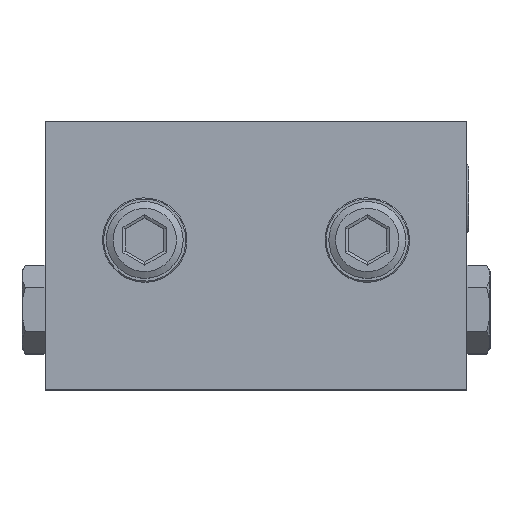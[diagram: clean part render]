
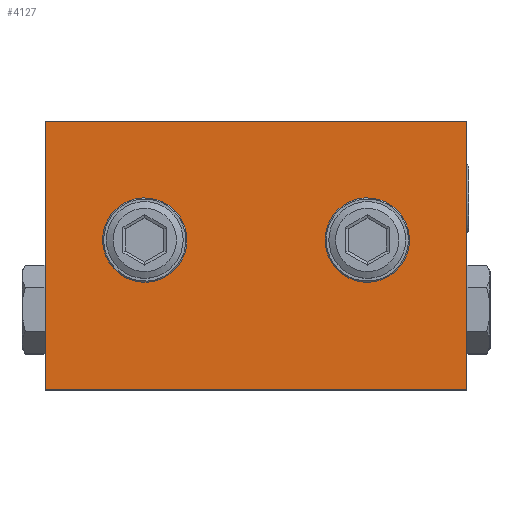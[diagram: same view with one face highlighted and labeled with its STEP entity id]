
A CAD part, top view. The second image highlights one B-rep face of the part: STEP entity #4127.
In plain terms, the highlighted planar face has unit normal (0, 0, 1) as drawn and (0, 0, -1) by its records, which use the part's own axes.
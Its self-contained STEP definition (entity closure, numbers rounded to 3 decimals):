
#1328 = EDGE_CURVE ( 'NONE', #9312, #15082, #9783, .T. ) ;
#1401 = DIRECTION ( 'NONE',  ( 0., 0., 1. ) ) ;
#1734 = CARTESIAN_POINT ( 'NONE',  ( -11.4, -15.5, -4.85 ) ) ;
#2035 = EDGE_CURVE ( 'NONE', #12770, #12770, #12037, .T. ) ;
#3020 = LINE ( 'NONE', #14480, #25596 ) ;
#3433 = AXIS2_PLACEMENT_3D ( 'NONE', #18681, #1401, #18859 ) ;
#3686 = ORIENTED_EDGE ( 'NONE', *, *, #27186, .F. ) ;
#4127 = ADVANCED_FACE ( 'NONE', ( #21812, #32584, #29810 ), #30347, .F. ) ;
#4567 = CARTESIAN_POINT ( 'NONE',  ( 27.5, 0., -4.85 ) ) ;
#5396 = AXIS2_PLACEMENT_3D ( 'NONE', #19506, #21559, #10557 ) ;
#5415 = DIRECTION ( 'NONE',  ( 0., 0., -1. ) ) ;
#6062 = CARTESIAN_POINT ( 'NONE',  ( 0., 0., -4.85 ) ) ;
#6235 = DIRECTION ( 'NONE',  ( -1., 0., 0. ) ) ;
#6666 = VECTOR ( 'NONE', #13202, 1000. ) ;
#7519 = EDGE_CURVE ( 'NONE', #34913, #31757, #15063, .T. ) ;
#8632 = ORIENTED_EDGE ( 'NONE', *, *, #15863, .F. ) ;
#9312 = VERTEX_POINT ( 'NONE', #20453 ) ;
#9783 = LINE ( 'NONE', #20579, #24020 ) ;
#10086 = VECTOR ( 'NONE', #6235, 1000. ) ;
#10557 = DIRECTION ( 'NONE',  ( -1., 0., 0. ) ) ;
#10716 = ORIENTED_EDGE ( 'NONE', *, *, #7519, .F. ) ;
#12037 = CIRCLE ( 'NONE', #5396, 3.1 ) ;
#12740 = EDGE_LOOP ( 'NONE', ( #10716, #26241, #19200, #3686 ) ) ;
#12770 = VERTEX_POINT ( 'NONE', #24116 ) ;
#13202 = DIRECTION ( 'NONE',  ( 0., 1., 0. ) ) ;
#14378 = CARTESIAN_POINT ( 'NONE',  ( 27.5, -35., -4.85 ) ) ;
#14480 = CARTESIAN_POINT ( 'NONE',  ( -27.5, 0., -4.85 ) ) ;
#14900 = AXIS2_PLACEMENT_3D ( 'NONE', #31546, #5415, #34543 ) ;
#15063 = LINE ( 'NONE', #6062, #10086 ) ;
#15082 = VERTEX_POINT ( 'NONE', #14378 ) ;
#15638 = CARTESIAN_POINT ( 'NONE',  ( 27.5, 0., -4.85 ) ) ;
#15863 = EDGE_CURVE ( 'NONE', #35568, #35568, #29148, .T. ) ;
#16553 = DIRECTION ( 'NONE',  ( 0., -1., 0. ) ) ;
#16937 = EDGE_CURVE ( 'NONE', #15082, #34913, #18808, .T. ) ;
#17658 = DIRECTION ( 'NONE',  ( 1., 0., 0. ) ) ;
#18681 = CARTESIAN_POINT ( 'NONE',  ( 0., 0., -4.85 ) ) ;
#18808 = LINE ( 'NONE', #15638, #6666 ) ;
#18859 = DIRECTION ( 'NONE',  ( 1., 0., 0. ) ) ;
#19200 = ORIENTED_EDGE ( 'NONE', *, *, #1328, .F. ) ;
#19506 = CARTESIAN_POINT ( 'NONE',  ( 14.5, -15.5, -4.85 ) ) ;
#19705 = EDGE_LOOP ( 'NONE', ( #8632 ) ) ;
#19743 = ORIENTED_EDGE ( 'NONE', *, *, #2035, .F. ) ;
#20453 = CARTESIAN_POINT ( 'NONE',  ( -27.5, -35., -4.85 ) ) ;
#20579 = CARTESIAN_POINT ( 'NONE',  ( 0., -35., -4.85 ) ) ;
#21559 = DIRECTION ( 'NONE',  ( 0., 0., -1. ) ) ;
#21812 = FACE_BOUND ( 'NONE', #19705, .T. ) ;
#24020 = VECTOR ( 'NONE', #17658, 1000. ) ;
#24116 = CARTESIAN_POINT ( 'NONE',  ( 11.4, -15.5, -4.85 ) ) ;
#25596 = VECTOR ( 'NONE', #16553, 1000. ) ;
#26241 = ORIENTED_EDGE ( 'NONE', *, *, #16937, .F. ) ;
#27186 = EDGE_CURVE ( 'NONE', #31757, #9312, #3020, .T. ) ;
#29148 = CIRCLE ( 'NONE', #14900, 3.1 ) ;
#29810 = FACE_OUTER_BOUND ( 'NONE', #12740, .T. ) ;
#30347 = PLANE ( 'NONE',  #3433 ) ;
#31546 = CARTESIAN_POINT ( 'NONE',  ( -14.5, -15.5, -4.85 ) ) ;
#31757 = VERTEX_POINT ( 'NONE', #33939 ) ;
#32584 = FACE_BOUND ( 'NONE', #34408, .T. ) ;
#33939 = CARTESIAN_POINT ( 'NONE',  ( -27.5, 0., -4.85 ) ) ;
#34408 = EDGE_LOOP ( 'NONE', ( #19743 ) ) ;
#34543 = DIRECTION ( 'NONE',  ( 1., 0., 0. ) ) ;
#34913 = VERTEX_POINT ( 'NONE', #4567 ) ;
#35568 = VERTEX_POINT ( 'NONE', #1734 ) ;
